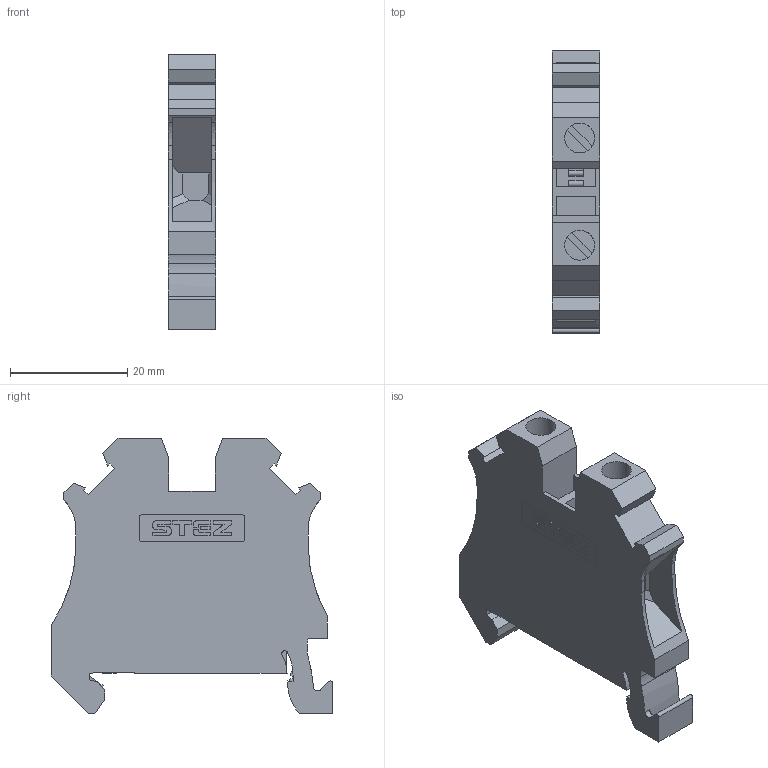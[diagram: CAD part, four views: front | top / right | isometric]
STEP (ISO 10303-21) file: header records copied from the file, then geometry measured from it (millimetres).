
FILE_DESCRIPTION(('TFLEX Exchange Step'),'2;1');
FILE_NAME('11000022_KHB_6-2-PE.stp', '2023-10-03T10:09:57+03:00',('apanin'),('Unknown organisation'),'TFLEX Exchange 2023.0','T-FLEX CAD','Unknown authorisation');
FILE_SCHEMA( ('AUTOMOTIVE_DESIGN { 1 0 10303 214 1 1 1 1 }') );
Length unit declared in the file: millimetre
Products named in the file (1): Тело_1 - 1:1
Bounding box: 8.15 x 48 x 46.85 mm (x, y, z)
Volume: 11026.8 mm3; surface area: 6392.3 mm2
Topology: 1 solids, 1 shells, 386 faces, 1117 edges, 742 vertices
Faces by surface type: plane 199, cylinder 187
Full cylindrical faces by diameter (mm): 5.1 x2
Entity records: 12919 total; most frequent: CARTESIAN_POINT 2269, DIRECTION 2265, ORIENTED_EDGE 2234, EDGE_CURVE 1117, AXIS2_PLACEMENT_3D 784, VERTEX_POINT 742, VECTOR 697, LINE 697
